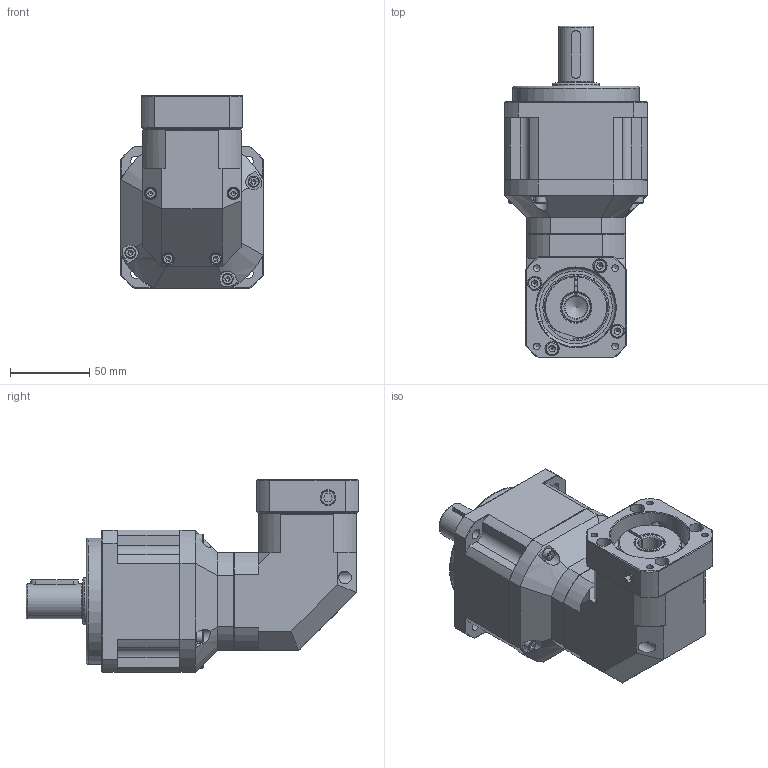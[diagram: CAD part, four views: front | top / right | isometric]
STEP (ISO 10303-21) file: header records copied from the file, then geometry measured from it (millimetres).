
FILE_DESCRIPTION((''),'2;1');
FILE_NAME('C:\Work\감속기 카다로그 도면\ATG Reducer(홈페이지)\PBL-H\STP\PBL90S-H-2.stp','2014-05-27T14:51:11',('young'),(''),'Autodesk Inventor 2012','Autodesk Inventor 2012','');
FILE_SCHEMA(('AUTOMOTIVE_DESIGN { 1 0 10303 214 1 1 1 1 }'));
Length unit declared in the file: millimetre
Products named in the file (1): PBL90S-H-2
Bounding box: 90 x 210 x 122 mm (x, y, z)
Volume: 806544.9 mm3; surface area: 156241.9 mm2
Topology: 26 solids, 26 shells, 794 faces, 1931 edges, 1234 vertices
Faces by surface type: plane 457, cylinder 172, cone 119, torus 25, bspline 21
Full cylindrical faces by diameter (mm): 3 x4, 3.3 x4, 4 x9, 4.2 x13, 4.5 x4, 5 x8, 5.5 x9, 6.8 x5, 7 x9, 8 x5, 8.5 x4, 9 x4, 9.5 x2, 14.2 x1, 19.3 x1, 19.8 x1, 20 x1, 22 x1, 29.8 x1, 30 x2, 32.71 x1, 35 x4, 42 x1, 48 x1, 49.831 x2, 50 x5, 52 x1, 54.763 x1, 80 x1
Entity records: 26589 total; most frequent: CARTESIAN_POINT 9019, DIRECTION 3594, ORIENTED_EDGE 3334, EDGE_CURVE 1667, AXIS2_PLACEMENT_3D 1367, VERTEX_POINT 1172, EDGE_LOOP 1095, VECTOR 860
